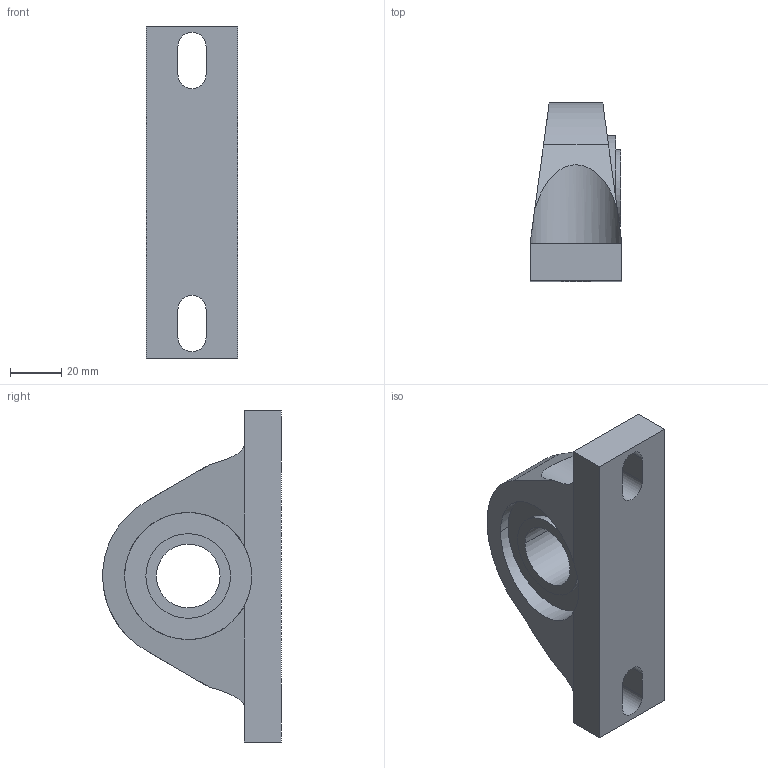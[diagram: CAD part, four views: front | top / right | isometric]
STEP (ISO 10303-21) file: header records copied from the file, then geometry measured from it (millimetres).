
FILE_DESCRIPTION(('SolidDesigner STEP Export'),'2;1');
FILE_NAME('Stehlager_RASEA_25.stp','2002-07-16T10:10:12',(''),(''),'SolidDesigner STEP processor Version: 9.0 (March 2001)for AP214(CD)(Solid Model)','CoCreate SolidDesigner: 11.00 12-Dec-2001(C) CoCreate Software GmbH','');
FILE_SCHEMA(('AUTOMOTIVE_DESIGN_CC2 {1 2 10303 214 -1 1 5 1}'));
Length unit declared in the file: millimetre
Products named in the file (1): Stehlager_RASEA_25
Bounding box: 36 x 70 x 130 mm (x, y, z)
Volume: 133424.6 mm3; surface area: 29422.4 mm2
Topology: 1 solids, 1 shells, 39 faces, 99 edges, 65 vertices
Faces by surface type: plane 20, cylinder 17, cone 2
Entity records: 1117 total; most frequent: ORIENTED_EDGE 198, DIRECTION 182, CARTESIAN_POINT 181, EDGE_CURVE 99, AXIS2_PLACEMENT_3D 66, VERTEX_POINT 65, VECTOR 50, LINE 50
